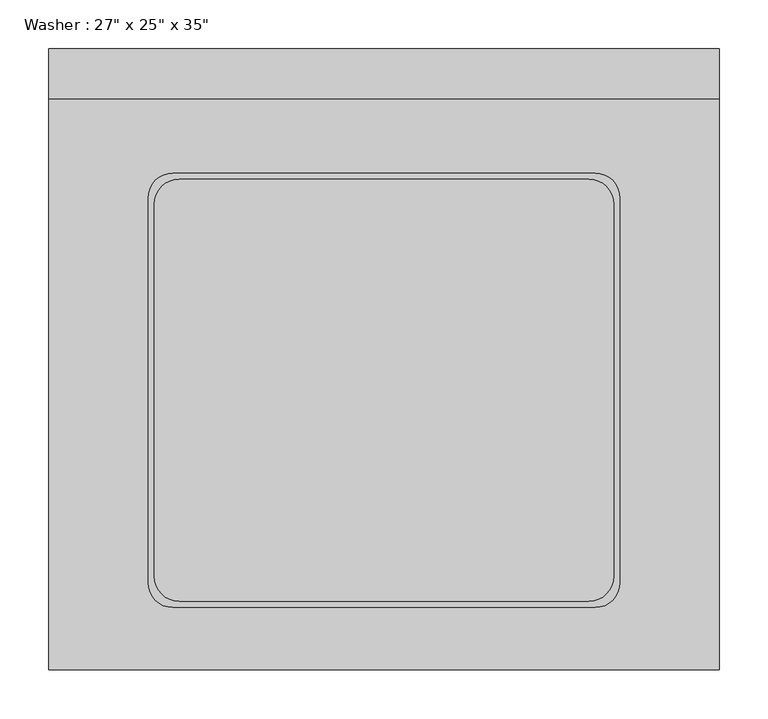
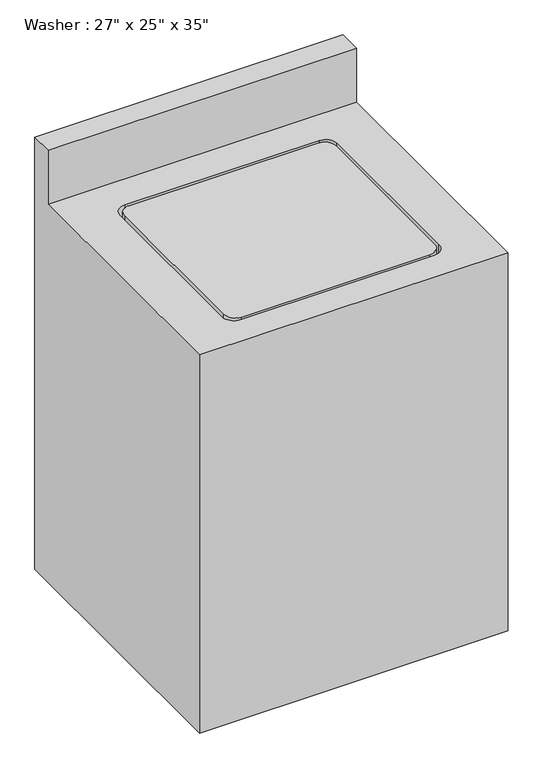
"""IFC4 building model written with IfcOpenShell, lengths in millimetres: proxy geometry."""

import ifcopenshell
import ifcopenshell.guid

model = None  # the IFC model being written
_history = None  # IfcOwnerHistory: only IFC2X3 demands one
_inside = {}  # id of a spatial element -> (the spatial element, [elements in it])
_under = {}  # id of a project, library or spatial element -> (it, [spatial elements below it])
_declared = {}  # id of a project -> (the project, [libraries it declares])
_typed = {}  # id of a type object -> (the type object, [elements of that type])
_made_of = {}  # id of a material, layer set ... -> (it, [elements and type objects made of it])


def new_model(schema):
    """Start an empty IFC model of exactly this schema.

    Asked for "IFC4X3", IfcOpenShell would pick the latest addendum, in which some entities
    have other attributes; the version numbers below select the first issue.
    IFC2X3 requires an IfcOwnerHistory on every rooted entity: one is made here for all.
    """
    global model, _history
    if schema == "IFC4X3":
        model = ifcopenshell.file(schema_version=(4, 3, 0, 0))
    else:
        model = ifcopenshell.file(schema=schema)
    _inside.clear()
    _under.clear()
    _declared.clear()
    _typed.clear()
    _made_of.clear()
    _history = None
    if model.schema == "IFC2X3":
        org = make("IfcOrganization", Name="unknown")
        user = make(
            "IfcPersonAndOrganization",
            ThePerson=make("IfcPerson", FamilyName="unknown"),
            TheOrganization=org,
        )
        app = make(
            "IfcApplication",
            ApplicationDeveloper=org,
            Version="unknown",
            ApplicationFullName="unknown",
            ApplicationIdentifier="unknown",
        )
        _history = make(
            "IfcOwnerHistory",
            OwningUser=user,
            OwningApplication=app,
            ChangeAction="ADDED",
            CreationDate=0,
        )
    return model


def make(cls, **values):
    """One entity of the class cls with the attributes given. An attribute that is None is left unset."""
    return model.create_entity(
        cls, **{name: value for name, value in values.items() if value is not None}
    )


def rooted(cls, **values):
    """An entity with a GlobalId (a new one), such as an element, a storey or a relation."""
    return make(cls, GlobalId=ifcopenshell.guid.new(), OwnerHistory=_history, **values)


def si_unit(unit_type, name, prefix=None):
    """IfcSIUnit, for example si_unit("LENGTHUNIT", "METRE", prefix="MILLI")."""
    return make("IfcSIUnit", UnitType=unit_type, Prefix=prefix, Name=name)


def assignment(units):
    """IfcUnitAssignment: the units of a project."""
    return None if units is None else make("IfcUnitAssignment", Units=units)


def point(xyz):
    """IfcCartesianPoint."""
    return None if xyz is None else make("IfcCartesianPoint", Coordinates=xyz)


def direction(xyz):
    """IfcDirection."""
    return None if xyz is None else make("IfcDirection", DirectionRatios=xyz)


def frame(location, z_axis=None, x_axis=None):
    """IfcAxis2Placement3D, a coordinate frame: its origin and axes. An axis left out is left unset."""
    return make(
        "IfcAxis2Placement3D",
        Location=point(location),
        Axis=direction(z_axis),
        RefDirection=direction(x_axis),
    )


def frame_2d(location, x_axis=None):
    """IfcAxis2Placement2D, a coordinate frame in the plane: its origin and x axis."""
    return make(
        "IfcAxis2Placement2D", Location=point(location), RefDirection=direction(x_axis)
    )


def origin():
    """The frame at (0, 0, 0) with its axes left unset."""
    return frame((0.0, 0.0, 0.0))


def place(relative_to, where):
    """IfcLocalPlacement: puts the frame where relative to a parent placement (None: the world)."""
    return make(
        "IfcLocalPlacement", PlacementRelTo=relative_to, RelativePlacement=where
    )


def context(
    kind, dimensions, precision=None, world=None, true_north=None, identifier=None
):
    """IfcGeometricRepresentationContext, for example the 3D "Model" context."""
    return make(
        "IfcGeometricRepresentationContext",
        ContextIdentifier=identifier,
        ContextType=kind,
        CoordinateSpaceDimension=dimensions,
        Precision=precision,
        WorldCoordinateSystem=world,
        TrueNorth=true_north,
    )


def project(units=None, contexts=None):
    """IfcProject with its units and contexts."""
    return rooted(
        "IfcProject",
        Name="project",
        RepresentationContexts=contexts,
        UnitsInContext=assignment(units),
    )


def spatial(cls, under=None, at=None, **own):
    """A site, building, storey or space (cls), placed at a placement, below another one or the project."""
    s = rooted(cls, ObjectPlacement=at, **own)
    if under is not None:
        _under.setdefault(under.id(), (under, []))[1].append(s)
    return s


def polyline(points):
    """IfcPolyline through the points."""
    return make("IfcPolyline", Points=[point(p) for p in points])


def circle_curve(where, radius):
    """IfcCircle in the frame where."""
    return make("IfcCircle", Position=where, Radius=radius)


def trimmed(basis, trim1, trim2, sense, master):
    """IfcTrimmedCurve: the piece of a basis curve between two trims."""
    return make(
        "IfcTrimmedCurve",
        BasisCurve=basis,
        Trim1=trim1,
        Trim2=trim2,
        SenseAgreement=sense,
        MasterRepresentation=master,
    )


def segment(curve, same_sense, transition):
    """IfcCompositeCurveSegment."""
    return make(
        "IfcCompositeCurveSegment",
        Transition=transition,
        SameSense=same_sense,
        ParentCurve=curve,
    )


def composite_curve(segments, self_intersect=None):
    """IfcCompositeCurve: segments joined end to end."""
    return make("IfcCompositeCurve", Segments=segments, SelfIntersect=self_intersect)


def outline(outer, holes=None, kind="AREA"):
    """IfcArbitraryClosedProfileDef: a profile drawn as a closed curve; with holes, ...WithVoids."""
    if holes is None:
        return make("IfcArbitraryClosedProfileDef", ProfileType=kind, OuterCurve=outer)
    return make(
        "IfcArbitraryProfileDefWithVoids",
        ProfileType=kind,
        OuterCurve=outer,
        InnerCurves=holes,
    )


def extrude(swept, where, along, depth):
    """IfcExtrudedAreaSolid: the profile swept, set in the frame where, extruded along a direction by depth."""
    return make(
        "IfcExtrudedAreaSolid",
        SweptArea=swept,
        Position=where,
        ExtrudedDirection=direction(along),
        Depth=depth,
    )


def shape(context_of_items, identifier, shape_type, items):
    """IfcShapeRepresentation: the items that make up one representation, for example the "Body"."""
    return make(
        "IfcShapeRepresentation",
        ContextOfItems=context_of_items,
        RepresentationIdentifier=identifier,
        RepresentationType=shape_type,
        Items=items,
    )


def source(mapping_origin, context_of_items, identifier, shape_type, items):
    """IfcRepresentationMap: a shape defined once, which mapped items show again and again."""
    return make(
        "IfcRepresentationMap",
        MappingOrigin=mapping_origin,
        MappedRepresentation=shape(context_of_items, identifier, shape_type, items),
    )


def transform(
    local_origin,
    x_axis=None,
    y_axis=None,
    z_axis=None,
    scale=None,
    scale2=None,
    scale3=None,
    uniform=True,
):
    """IfcCartesianTransformationOperator3D, or its non-uniform kind. x_axis, y_axis, z_axis: its Axis1, 2, 3."""
    if uniform:
        return make(
            "IfcCartesianTransformationOperator3D",
            Axis1=direction(x_axis),
            Axis2=direction(y_axis),
            LocalOrigin=point(local_origin),
            Scale=scale,
            Axis3=direction(z_axis),
        )
    return make(
        "IfcCartesianTransformationOperator3DnonUniform",
        Axis1=direction(x_axis),
        Axis2=direction(y_axis),
        LocalOrigin=point(local_origin),
        Scale=scale,
        Axis3=direction(z_axis),
        Scale2=scale2,
        Scale3=scale3,
    )


def mapped(mapping_source, mapping_target):
    """IfcMappedItem: shows the shape of a source again, moved by a transform."""
    return make(
        "IfcMappedItem", MappingSource=mapping_source, MappingTarget=mapping_target
    )


def made_of(thing, what):
    """Note that an element or type object is made of a material, layer set ...; save() writes the relation."""
    if what is not None:
        _made_of.setdefault(what.id(), (what, []))[1].append(thing)
    return thing


def element(
    cls,
    number,
    at=None,
    inside=None,
    cuts=None,
    type_object=None,
    material=None,
    context=None,
    identifier="Body",
    shape_type=None,
    held_by="IfcProductDefinitionShape",
    body=None,
    shapes=None,
    **own,
):
    """One element of the class cls, such as IfcWall. Its Tag is "e" and its number.

    at: its placement. inside: the storey or other place that contains it. cuts: it is an
    opening in that element (IfcRelVoidsElement). A single representation is given by context,
    identifier, shape_type and body (its items); several are given by shapes. held_by: the class
    of the entity that holds the representations. save() writes the other relations.
    """
    e = rooted(cls, Tag="e%d" % number, ObjectPlacement=at, **own)
    if body is not None:
        shapes = [shape(context, identifier, shape_type, body)]
    if shapes is not None:
        e.Representation = make(held_by, Representations=shapes)
    if inside is not None:
        _inside.setdefault(inside.id(), (inside, []))[1].append(e)
    if cuts is not None:
        rooted(
            "IfcRelVoidsElement", RelatingBuildingElement=cuts, RelatedOpeningElement=e
        )
    if type_object is not None:
        _typed.setdefault(type_object.id(), (type_object, []))[1].append(e)
    return made_of(e, material)


def aggregate(whole, parts):
    """IfcRelAggregates: a whole, such as a stair, and the parts it consists of."""
    return rooted("IfcRelAggregates", RelatingObject=whole, RelatedObjects=parts)


def save(model, path):
    """Write the relations noted so far, then the file.

    IfcRelAggregates (storeys below a building ...), IfcRelContainedInSpatialStructure (elements
    in a storey), IfcRelDefinesByType, IfcRelAssociatesMaterial and IfcRelDeclares: one each for
    every whole, place, type object, material and project.
    """
    for whole, parts in _under.values():
        aggregate(whole, parts)
    for where, things in _inside.values():
        rooted(
            "IfcRelContainedInSpatialStructure",
            RelatedElements=things,
            RelatingStructure=where,
        )
    for kind, things in _typed.values():
        rooted("IfcRelDefinesByType", RelatedObjects=things, RelatingType=kind)
    for what, things in _made_of.values():
        rooted("IfcRelAssociatesMaterial", RelatedObjects=things, RelatingMaterial=what)
    for by, libraries in _declared.values():
        rooted("IfcRelDeclares", RelatingContext=by, RelatedDefinitions=libraries)
    model.write(path)


def plane_surface(at):
    """IfcPlane: the flat surface through the origin of the frame at, square to its z axis."""
    return make("IfcPlane", Position=at)


def revolved_surface(curve, axis_point, axis_direction):
    """IfcSurfaceOfRevolution: the curve turned about the line through axis_point along axis_direction."""
    return make(
        "IfcSurfaceOfRevolution",
        SweptCurve=make("IfcArbitraryOpenProfileDef", ProfileType="CURVE", Curve=curve),
        AxisPosition=make("IfcAxis1Placement", Location=point(axis_point), Axis=direction(axis_direction)),
    )


def advanced_brep(points, edges, surfaces, faces):
    """IfcAdvancedBrep: a solid bounded by faces that lie on surfaces and meet in shared edges.

    An edge is (start, end): straight between two places in points (the first is 0);
    or (start, end, curve); or (start, end, curve, False) where it runs against its curve.
    A face is (place in surfaces, loops), or (place, loops, False) where it looks against
    its surface's normal. A loop lists edges by number (the first is 1), with a minus sign
    where the edge is run from its end to its start. The first loop is the outer one.
    """
    corners = [point(p) for p in points]
    vertices = [make("IfcVertexPoint", VertexGeometry=c) for c in corners]
    made = []
    for start, end, *more in edges:
        made.append(
            make(
                "IfcEdgeCurve",
                EdgeStart=vertices[start],
                EdgeEnd=vertices[end],
                EdgeGeometry=more[0] if more else make("IfcPolyline", Points=[corners[start], corners[end]]),
                SameSense=more[1] if len(more) > 1 else True,
            )
        )
    hull = []
    for where, loops, *sense in faces:
        bounds = []
        for j, loop in enumerate(loops):
            ring = [make("IfcOrientedEdge", EdgeElement=made[abs(k) - 1], Orientation=k > 0) for k in loop]
            bounds.append(
                make(
                    "IfcFaceOuterBound" if j == 0 else "IfcFaceBound",
                    Bound=make("IfcEdgeLoop", EdgeList=ring),
                    Orientation=True,
                )
            )
        hull.append(make("IfcAdvancedFace", Bounds=bounds, FaceSurface=surfaces[where], SameSense=sense[0] if sense else True))
    return make("IfcAdvancedBrep", Outer=make("IfcClosedShell", CfsFaces=hull))


def proxy_718fa39f(model_context):
    return source(origin(), model_context, "Body", "SolidModel", [
        extrude(outline(composite_curve([segment(trimmed(circle_curve(frame_2d((210.8674685, 437.8995648)), 25.4), [point((185.4674685, 437.8995648))], [point((210.8674685, 463.2995648))], False, "CARTESIAN"), True, "CONTINUOUS"), segment(polyline([(210.8674685, 463.2995648), (629.9674685, 463.2995648)]), True, "CONTINUOUS"), segment(trimmed(circle_curve(frame_2d((629.9674685, 437.8995648)), 25.4), [point((629.9674685, 463.2995648))], [point((655.3674685, 437.8995648))], False, "CARTESIAN"), True, "CONTINUOUS"), segment(polyline([(655.3674685, 437.8995648), (655.3674685, 56.8995648)]), True, "CONTINUOUS"), segment(trimmed(circle_curve(frame_2d((629.9674685, 56.8995648)), 25.4), [point((655.3674685, 56.8995648))], [point((629.9674685, 31.4995648))], False, "CARTESIAN"), True, "CONTINUOUS"), segment(polyline([(629.9674685, 31.4995648), (210.8674685, 31.4995648)]), True, "CONTINUOUS"), segment(trimmed(circle_curve(frame_2d((210.8674685, 56.8995648)), 25.4), [point((210.8674685, 31.4995648))], [point((185.4674685, 56.8995648))], False, "CARTESIAN"), True, "CONTINUOUS"), segment(polyline([(185.4674685, 56.8995648), (185.4674685, 437.8995648)]), True, "CONTINUOUS")], self_intersect=False)), frame((0.0, 0.0, 863.6), z_axis=(0.0, 0.0, 1.0), x_axis=(1.0, 0.0, 0.0)), (0.0, 0.0, 1.0), 25.4),
        advanced_brep(
        [(77.5174685, 545.8495648, 889.0), (77.5174685, 545.8495648, 1016.0), (77.5174685, 596.6495648, 1016.0), (77.5174685, 596.6495648, 0.0), (77.5174685, -38.3504352, 0.0), (77.5174685, -38.3504352, 889.0), (763.3174685, 596.6495648, 1016.0), (763.3174685, 545.8495648, 1016.0), (763.3174685, 545.8495648, 889.0), (763.3174685, -38.3504352, 889.0), (763.3174685, -38.3504352, 0.0), (763.3174685, 596.6495648, 0.0), (204.5174685, 469.4681955, 889.0), (636.3174685, 469.4681955, 889.0), (661.7174685, 444.0681955, 889.0), (661.7174685, 50.5495648, 889.0), (636.3174685, 25.1495648, 889.0), (204.5174685, 25.1495648, 889.0), (179.1174685, 50.5495648, 889.0), (179.1174685, 444.0681955, 889.0), (636.3174685, 469.4681955, 838.2), (204.5174685, 469.4681955, 838.2), (179.1174685, 444.0681955, 838.2), (179.1174685, 50.5495648, 838.2), (204.5174685, 25.1495648, 838.2), (636.3174685, 25.1495648, 838.2), (661.7174685, 50.5495648, 838.2), (661.7174685, 444.0681955, 838.2)],
        [
            (0, 1),
            (1, 2),
            (2, 3),
            (3, 4),
            (4, 5),
            (5, 0),
            (6, 7),
            (7, 8),
            (8, 9),
            (9, 10),
            (10, 11),
            (11, 6),
            (0, 8),
            (7, 1),
            (6, 2),
            (11, 3),
            (5, 9),
            (12, 13),
            (13, 14, circle_curve(frame((636.3174685, 444.0681955, 889.0), z_axis=(0.0, 0.0, -1.0), x_axis=(0.0, -1.0, 0.0)), 25.4)),
            (14, 15),
            (15, 16, circle_curve(frame((636.3174685, 50.5495648, 889.0), z_axis=(0.0, 0.0, -1.0), x_axis=(0.0, -1.0, 0.0)), 25.4)),
            (16, 17),
            (17, 18, circle_curve(frame((204.5174685, 50.5495648, 889.0), z_axis=(0.0, 0.0, -1.0), x_axis=(0.0, -1.0, 0.0)), 25.4)),
            (18, 19),
            (19, 12, circle_curve(frame((204.5174685, 444.0681955, 889.0), z_axis=(0.0, 0.0, -1.0), x_axis=(0.0, -1.0, 0.0)), 25.4)),
            (10, 4),
            (20, 21),
            (21, 22, circle_curve(frame((204.5174685, 444.0681955, 838.2), z_axis=(0.0, 0.0, 1.0), x_axis=(0.0, -1.0, 0.0)), 25.4)),
            (22, 23),
            (23, 24, circle_curve(frame((204.5174685, 50.5495648, 838.2), z_axis=(0.0, 0.0, 1.0), x_axis=(0.0, -1.0, 0.0)), 25.4)),
            (24, 25),
            (25, 26, circle_curve(frame((636.3174685, 50.5495648, 838.2), z_axis=(0.0, 0.0, 1.0), x_axis=(0.0, -1.0, 0.0)), 25.4)),
            (26, 27),
            (27, 20, circle_curve(frame((636.3174685, 444.0681955, 838.2), z_axis=(0.0, 0.0, 1.0), x_axis=(0.0, -1.0, 0.0)), 25.4)),
            (20, 13),
            (12, 21),
            (19, 22),
            (18, 23),
            (17, 24),
            (16, 25),
            (15, 26),
            (14, 27),
        ],
        [
            plane_surface(frame((77.5174685, 545.8495648, 889.0), z_axis=(-1.0, 0.0, 0.0), x_axis=(0.0, 0.0, 1.0))),
            plane_surface(frame((763.3174685, 545.8495648, 889.0), z_axis=(1.0, 0.0, 0.0), x_axis=(0.0, 0.0, -1.0))),
            plane_surface(frame((77.5174685, 545.8495648, 889.0), z_axis=(0.0, -1.0, 0.0), x_axis=(1.0, 0.0, 0.0))),
            plane_surface(frame((77.5174685, 545.8495648, 1016.0), z_axis=(0.0, 0.0, 1.0), x_axis=(1.0, 0.0, 0.0))),
            plane_surface(frame((77.5174685, 596.6495648, 1016.0), z_axis=(0.0, 1.0, 0.0), x_axis=(1.0, 0.0, 0.0))),
            plane_surface(frame((77.5174685, -38.3504352, 889.0), z_axis=(0.0, 0.0, 1.0), x_axis=(0.0, -1.0, 0.0))),
            plane_surface(frame((77.5174685, -38.3504352, 0.0), z_axis=(0.0, 0.0, -1.0), x_axis=(0.0, 1.0, 0.0))),
            plane_surface(frame((77.5174685, -38.3504352, 889.0), z_axis=(0.0, -1.0, 0.0), x_axis=(0.0, 0.0, -1.0))),
            plane_surface(frame((204.5174685, 469.4681955, 838.2), z_axis=(0.0, 0.0, 1.0), x_axis=(1.0, 0.0, 0.0))),
            plane_surface(frame((636.3174685, 469.4681955, 889.0), z_axis=(0.0, -1.0, 0.0), x_axis=(0.0, 0.0, -1.0))),
            revolved_surface(polyline([(204.5174685, 418.6681955, 889.0), (204.5174685, 418.6681955, 838.2)]), (204.5174685, 444.0681955, 838.2), (0.0, 0.0, 1.0)),
            plane_surface(frame((179.1174685, 444.0681955, 889.0), z_axis=(1.0, 0.0, 0.0), x_axis=(0.0, 0.0, -1.0))),
            revolved_surface(polyline([(204.5174685, 25.1495648, 889.0), (204.5174685, 25.1495648, 838.2)]), (204.5174685, 50.5495648, 838.2), (0.0, 0.0, 1.0)),
            plane_surface(frame((204.5174685, 25.1495648, 889.0), z_axis=(0.0, 1.0, 0.0), x_axis=(0.0, 0.0, -1.0))),
            revolved_surface(polyline([(636.3174685, 25.1495648, 889.0), (636.3174685, 25.1495648, 838.2)]), (636.3174685, 50.5495648, 838.2), (0.0, 0.0, 1.0)),
            plane_surface(frame((661.7174685, 50.5495648, 889.0), z_axis=(-1.0, 0.0, 0.0), x_axis=(0.0, 0.0, -1.0))),
            revolved_surface(polyline([(636.3174685, 418.6681955, 889.0), (636.3174685, 418.6681955, 838.2)]), (636.3174685, 444.0681955, 838.2), (0.0, 0.0, 1.0)),
        ],
        [
            (0, [[1, 2, 3, 4, 5, 6]]),
            (1, [[7, 8, 9, 10, 11, 12]]),
            (2, [[-1, 13, -8, 14]]),
            (3, [[-2, -14, -7, 15]]),
            (4, [[-15, -12, 16, -3]]),
            (5, [[17, -9, -13, -6], [18, 19, 20, 21, 22, 23, 24, 25]]),
            (6, [[-16, -11, 26, -4]]),
            (7, [[-17, -5, -26, -10]]),
            (8, [[27, 28, 29, 30, 31, 32, 33, 34]]),
            (9, [[-27, 35, -18, 36]]),
            (10, [[-28, -36, -25, 37]]),
            (11, [[-29, -37, -24, 38]]),
            (12, [[-30, -38, -23, 39]]),
            (13, [[-31, -39, -22, 40]]),
            (14, [[-32, -40, -21, 41]]),
            (15, [[-33, -41, -20, 42]]),
            (16, [[-34, -42, -19, -35]]),
        ],
    ),
    ])


if __name__ == "__main__":
    model = new_model("IFC4")
    model_context = context("Model", 3, world=origin())
    ifc_project = project(units=[si_unit("LENGTHUNIT", "METRE", prefix="MILLI")], contexts=[model_context])
    site = spatial("IfcSite", under=ifc_project)
    building = spatial("IfcBuilding", under=site)
    placement = place(None, origin())
    proxy_shape = proxy_718fa39f(model_context)
    element("IfcBuildingElementProxy", 1, Name="Washer : 27\" x 25\" x 35\"", ObjectType="Washer : 27\" x 25\" x 35\"", at=placement, inside=building, context=model_context, shape_type="MappedRepresentation", body=[
        mapped(proxy_shape, transform((0.0, 0.0, 0.0), x_axis=(1.0, 0.0, 0.0), y_axis=(0.0, 1.0, 0.0), z_axis=(0.0, 0.0, 1.0))),
    ])
    save(model, "model.ifc")
